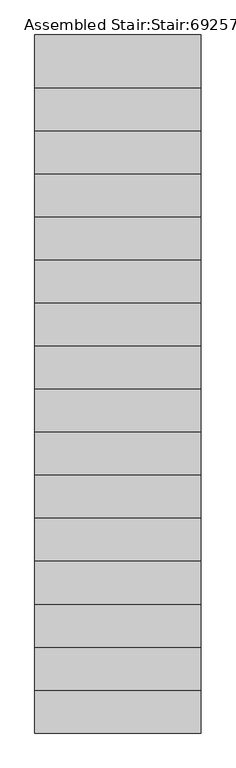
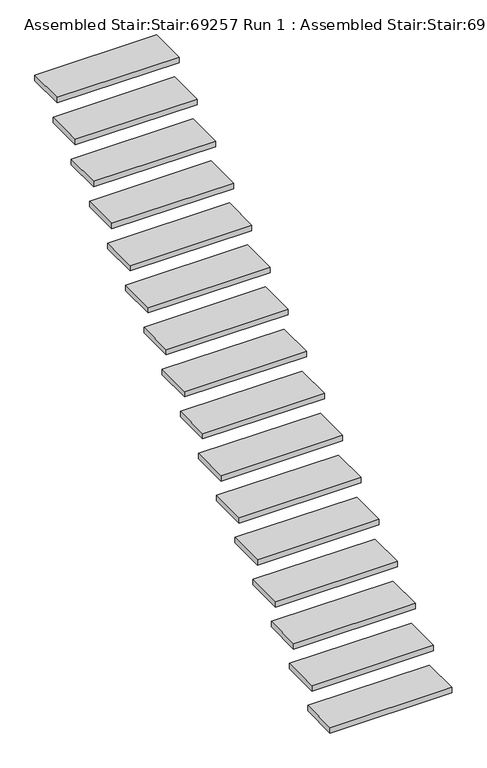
"""IFC4 building model written with IfcOpenShell, lengths in millimetres: stair geometry, Assembled Stair:Stair:69257 Run 1 : Assembled Stair:Stair:69257 Run 1."""

from ifc_helpers import new_model, si_unit, frame, origin, place, context, project, spatial, polyline, outline, extrude, source, transform, mapped, element, save


def assembled_stair_stair_69257_run_1_assembled_stair_stair_86e8642f(model_context):
    return source(origin(), model_context, "Body", "SweptSolid", [
        extrude(outline(polyline([(21349.8089026, -22024.6322236), (21349.8089026, -21754.6322236), (22199.8089026, -21754.6322236), (22199.8089026, -22024.6322236), (21349.8089026, -22024.6322236)])), frame((0.0, 0.0, 2783.5294118), z_axis=(0.0, 0.0, 1.0), x_axis=(1.0, 0.0, 0.0)), (0.0, 0.0, 1.0), 40.0),
        extrude(outline(polyline([(21349.8089026, -22244.6322236), (21349.8089026, -21974.6322236), (22199.8089026, -21974.6322236), (22199.8089026, -22244.6322236), (21349.8089026, -22244.6322236)])), frame((0.0, 0.0, 2607.0588235), z_axis=(0.0, 0.0, 1.0), x_axis=(1.0, 0.0, 0.0)), (0.0, 0.0, 1.0), 40.0),
        extrude(outline(polyline([(21349.8089026, -22464.6322236), (21349.8089026, -22194.6322236), (22199.8089026, -22194.6322236), (22199.8089026, -22464.6322236), (21349.8089026, -22464.6322236)])), frame((0.0, 0.0, 2430.5882353), z_axis=(0.0, 0.0, 1.0), x_axis=(1.0, 0.0, 0.0)), (0.0, 0.0, 1.0), 40.0),
        extrude(outline(polyline([(21349.8089026, -22684.6322236), (21349.8089026, -22414.6322236), (22199.8089026, -22414.6322236), (22199.8089026, -22684.6322236), (21349.8089026, -22684.6322236)])), frame((0.0, 0.0, 2254.1176471), z_axis=(0.0, 0.0, 1.0), x_axis=(1.0, 0.0, 0.0)), (0.0, 0.0, 1.0), 40.0),
        extrude(outline(polyline([(21349.8089026, -22904.6322236), (21349.8089026, -22634.6322236), (22199.8089026, -22634.6322236), (22199.8089026, -22904.6322236), (21349.8089026, -22904.6322236)])), frame((0.0, 0.0, 2077.6470588), z_axis=(0.0, 0.0, 1.0), x_axis=(1.0, 0.0, 0.0)), (0.0, 0.0, 1.0), 40.0),
        extrude(outline(polyline([(21349.8089026, -23124.6322236), (21349.8089026, -22854.6322236), (22199.8089026, -22854.6322236), (22199.8089026, -23124.6322236), (21349.8089026, -23124.6322236)])), frame((0.0, 0.0, 1901.1764706), z_axis=(0.0, 0.0, 1.0), x_axis=(1.0, 0.0, 0.0)), (0.0, 0.0, 1.0), 40.0),
        extrude(outline(polyline([(21349.8089026, -23344.6322236), (21349.8089026, -23074.6322236), (22199.8089026, -23074.6322236), (22199.8089026, -23344.6322236), (21349.8089026, -23344.6322236)])), frame((0.0, 0.0, 1724.7058824), z_axis=(0.0, 0.0, 1.0), x_axis=(1.0, 0.0, 0.0)), (0.0, 0.0, 1.0), 40.0),
        extrude(outline(polyline([(21349.8089026, -23564.6322236), (21349.8089026, -23294.6322236), (22199.8089026, -23294.6322236), (22199.8089026, -23564.6322236), (21349.8089026, -23564.6322236)])), frame((0.0, 0.0, 1548.2352941), z_axis=(0.0, 0.0, 1.0), x_axis=(1.0, 0.0, 0.0)), (0.0, 0.0, 1.0), 40.0),
        extrude(outline(polyline([(21349.8089026, -23784.6322236), (21349.8089026, -23514.6322236), (22199.8089026, -23514.6322236), (22199.8089026, -23784.6322236), (21349.8089026, -23784.6322236)])), frame((0.0, 0.0, 1371.7647059), z_axis=(0.0, 0.0, 1.0), x_axis=(1.0, 0.0, 0.0)), (0.0, 0.0, 1.0), 40.0),
        extrude(outline(polyline([(21349.8089026, -24004.6322236), (21349.8089026, -23734.6322236), (22199.8089026, -23734.6322236), (22199.8089026, -24004.6322236), (21349.8089026, -24004.6322236)])), frame((0.0, 0.0, 1195.2941176), z_axis=(0.0, 0.0, 1.0), x_axis=(1.0, 0.0, 0.0)), (0.0, 0.0, 1.0), 40.0),
        extrude(outline(polyline([(21349.8089026, -24224.6322236), (21349.8089026, -23954.6322236), (22199.8089026, -23954.6322236), (22199.8089026, -24224.6322236), (21349.8089026, -24224.6322236)])), frame((0.0, 0.0, 1018.8235294), z_axis=(0.0, 0.0, 1.0), x_axis=(1.0, 0.0, 0.0)), (0.0, 0.0, 1.0), 40.0),
        extrude(outline(polyline([(21349.8089026, -24444.6322236), (21349.8089026, -24174.6322236), (22199.8089026, -24174.6322236), (22199.8089026, -24444.6322236), (21349.8089026, -24444.6322236)])), frame((0.0, 0.0, 842.3529412), z_axis=(0.0, 0.0, 1.0), x_axis=(1.0, 0.0, 0.0)), (0.0, 0.0, 1.0), 40.0),
        extrude(outline(polyline([(21349.8089026, -24664.6322236), (21349.8089026, -24394.6322236), (22199.8089026, -24394.6322236), (22199.8089026, -24664.6322236), (21349.8089026, -24664.6322236)])), frame((0.0, 0.0, 665.8823529), z_axis=(0.0, 0.0, 1.0), x_axis=(1.0, 0.0, 0.0)), (0.0, 0.0, 1.0), 40.0),
        extrude(outline(polyline([(21349.8089026, -24884.6322236), (21349.8089026, -24614.6322236), (22199.8089026, -24614.6322236), (22199.8089026, -24884.6322236), (21349.8089026, -24884.6322236)])), frame((0.0, 0.0, 489.4117647), z_axis=(0.0, 0.0, 1.0), x_axis=(1.0, 0.0, 0.0)), (0.0, 0.0, 1.0), 40.0),
        extrude(outline(polyline([(21349.8089026, -25104.6322236), (21349.8089026, -24834.6322236), (22199.8089026, -24834.6322236), (22199.8089026, -25104.6322236), (21349.8089026, -25104.6322236)])), frame((0.0, 0.0, 312.9411765), z_axis=(0.0, 0.0, 1.0), x_axis=(1.0, 0.0, 0.0)), (0.0, 0.0, 1.0), 40.0),
        extrude(outline(polyline([(21349.8089026, -25324.6322236), (21349.8089026, -25054.6322236), (22199.8089026, -25054.6322236), (22199.8089026, -25324.6322236), (21349.8089026, -25324.6322236)])), frame((0.0, 0.0, 136.4705882), z_axis=(0.0, 0.0, 1.0), x_axis=(1.0, 0.0, 0.0)), (0.0, 0.0, 1.0), 40.0),
    ])


if __name__ == "__main__":
    model = new_model("IFC4")
    model_context = context("Model", 3, world=origin())
    ifc_project = project(units=[si_unit("LENGTHUNIT", "METRE", prefix="MILLI")], contexts=[model_context])
    site = spatial("IfcSite", under=ifc_project)
    building = spatial("IfcBuilding", under=site)
    placement = place(None, origin())
    assembled_stair_stair_69257_run_1_assembled_stair_stair_shape = assembled_stair_stair_69257_run_1_assembled_stair_stair_86e8642f(model_context)
    element("IfcStair", 1, ObjectType="Assembled Stair:Stair:69257 Run 1 : Assembled Stair:Stair:69257 Run 1", at=placement, inside=building, context=model_context, shape_type="MappedRepresentation", body=[
        mapped(assembled_stair_stair_69257_run_1_assembled_stair_stair_shape, transform((0.0, 0.0, 0.0), x_axis=(1.0, 0.0, 0.0), y_axis=(0.0, 1.0, 0.0), z_axis=(0.0, 0.0, 1.0))),
    ])
    save(model, "model.ifc")
